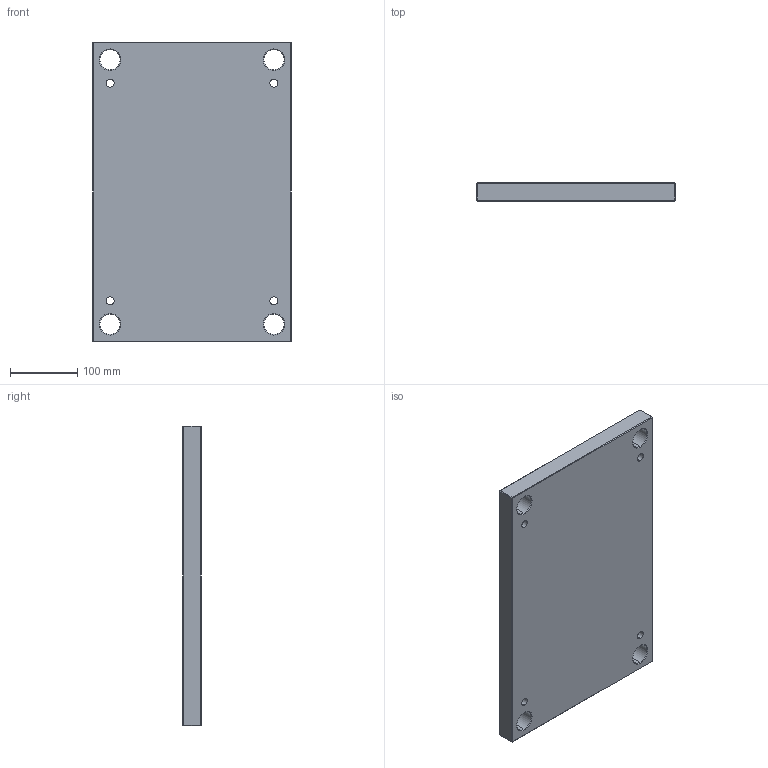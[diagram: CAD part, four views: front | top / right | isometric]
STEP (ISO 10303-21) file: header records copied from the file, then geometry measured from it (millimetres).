
FILE_DESCRIPTION (( 'STEP AP214' ), '1' );
FILE_NAME ('PS-EU-296x446x27.STEP', '2021-02-17T16:17:56', ( '' ), ( '' ), 'SwSTEP 2.0', 'SolidWorks 2018', '' );
FILE_SCHEMA (( 'AUTOMOTIVE_DESIGN' ));
Length unit declared in the file: millimetre
Products named in the file (1): PS-EU-296x446x27
Bounding box: 296 x 27 x 446 mm (x, y, z)
Volume: 3462699.3 mm3; surface area: 310961.9 mm2
Topology: 1 solids, 1 shells, 70 faces, 152 edges, 88 vertices
Faces by surface type: plane 30, cylinder 24, cone 16
Entity records: 1946 total; most frequent: DIRECTION 358, CARTESIAN_POINT 311, ORIENTED_EDGE 304, EDGE_CURVE 152, AXIS2_PLACEMENT_3D 135, EDGE_LOOP 90, VERTEX_POINT 88, VECTOR 88
